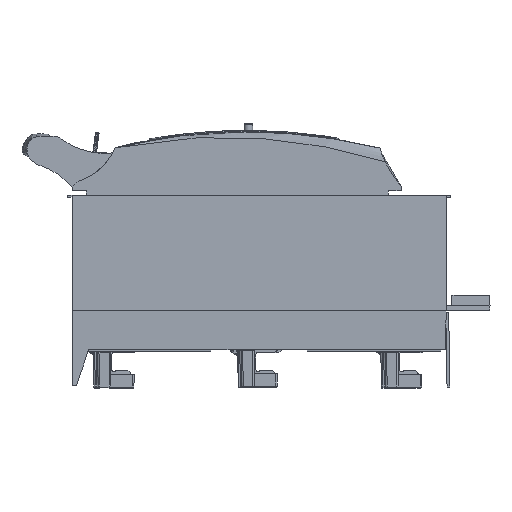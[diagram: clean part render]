
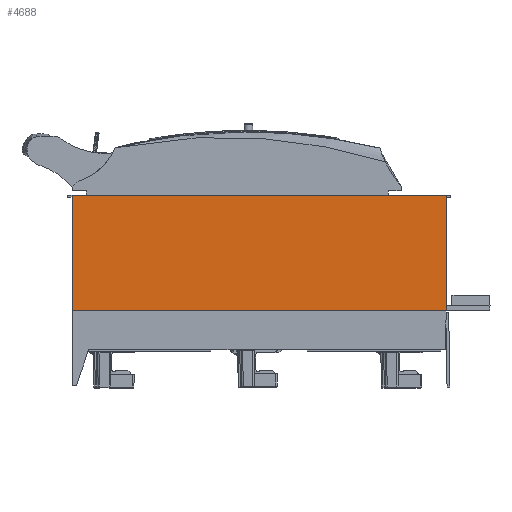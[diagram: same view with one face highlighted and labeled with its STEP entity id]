
A CAD part, front view. The second image highlights one B-rep face of the part: STEP entity #4688.
In plain terms, the highlighted planar face has unit normal (0, -1, 0).
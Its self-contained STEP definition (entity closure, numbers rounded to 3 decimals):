
#2588=FACE_OUTER_BOUND('',#8374,.T.);
#4688=ADVANCED_FACE('',(#2588),#6862,.F.);
#6862=PLANE('',#39466);
#8374=EDGE_LOOP('',(#12679,#12680,#12681,#12682));
#12679=ORIENTED_EDGE('',*,*,#27404,.T.);
#12680=ORIENTED_EDGE('',*,*,#27435,.F.);
#12681=ORIENTED_EDGE('',*,*,#28000,.F.);
#12682=ORIENTED_EDGE('',*,*,#27423,.T.);
#23678=VERTEX_POINT('',#53768);
#23679=VERTEX_POINT('',#53770);
#23695=VERTEX_POINT('',#53806);
#23705=VERTEX_POINT('',#53828);
#27404=EDGE_CURVE('',#23679,#23678,#33199,.T.);
#27423=EDGE_CURVE('',#23695,#23679,#33212,.T.);
#27435=EDGE_CURVE('',#23705,#23678,#33224,.T.);
#28000=EDGE_CURVE('',#23695,#23705,#33291,.T.);
#33199=LINE('',#53769,#36119);
#33212=LINE('',#53805,#36132);
#33224=LINE('',#53829,#36144);
#33291=LINE('',#55792,#36211);
#36119=VECTOR('',#43007,1.);
#36132=VECTOR('',#43034,1.);
#36144=VECTOR('',#43048,1.);
#36211=VECTOR('',#43889,1.);
#39466=AXIS2_PLACEMENT_3D('',#55809,#43903,#43904);
#43007=DIRECTION('',(1.,0.,0.));
#43034=DIRECTION('',(0.,0.,-1.));
#43048=DIRECTION('',(0.,0.,-1.));
#43889=DIRECTION('',(1.,0.,0.));
#43903=DIRECTION('',(0.,1.,0.));
#43904=DIRECTION('',(0.,0.,1.));
#53768=CARTESIAN_POINT('',(129.812,-103.938,0.193));
#53769=CARTESIAN_POINT('',(129.812,-103.938,0.193));
#53770=CARTESIAN_POINT('',(-130.188,-103.938,0.193));
#53805=CARTESIAN_POINT('',(-130.188,-103.938,80.193));
#53806=CARTESIAN_POINT('',(-130.188,-103.938,80.193));
#53828=CARTESIAN_POINT('',(129.812,-103.938,80.193));
#53829=CARTESIAN_POINT('',(129.812,-103.938,80.193));
#55792=CARTESIAN_POINT('',(129.812,-103.938,80.193));
#55809=CARTESIAN_POINT('',(129.812,-103.938,80.193));
